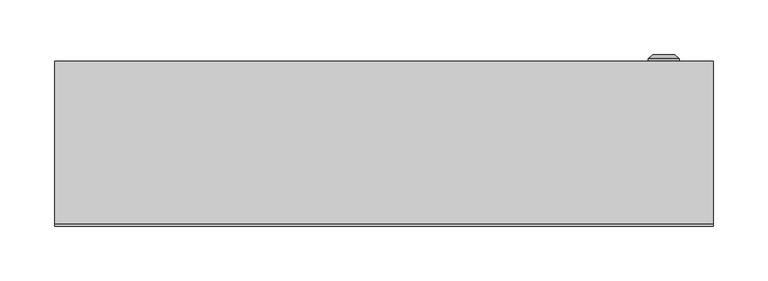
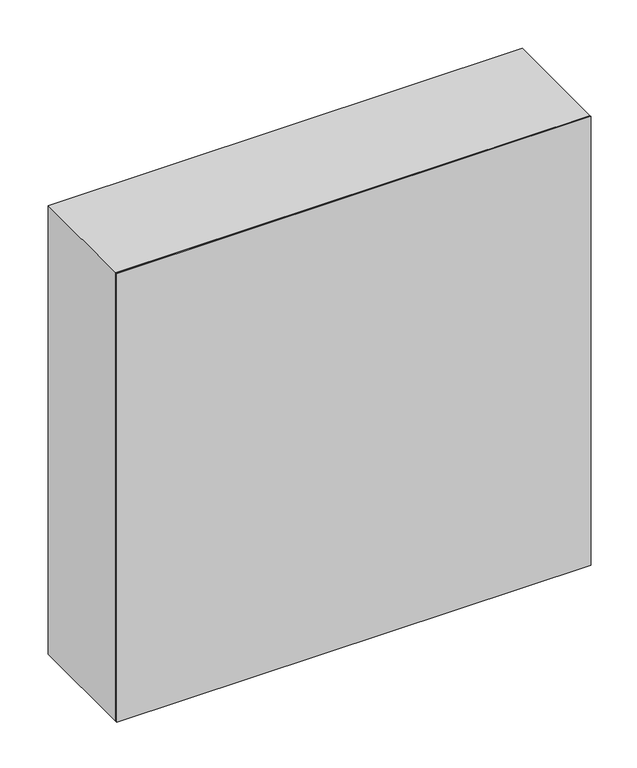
"""IFC4 building model written with IfcOpenShell, lengths in millimetres: proxy geometry, ЩМП : ЩМП-6.6.1-0_600х600х150."""

import ifcopenshell
import ifcopenshell.guid

model = None  # the IFC model being written
_history = None  # IfcOwnerHistory: only IFC2X3 demands one
_inside = {}  # id of a spatial element -> (the spatial element, [elements in it])
_under = {}  # id of a project, library or spatial element -> (it, [spatial elements below it])
_declared = {}  # id of a project -> (the project, [libraries it declares])
_typed = {}  # id of a type object -> (the type object, [elements of that type])
_made_of = {}  # id of a material, layer set ... -> (it, [elements and type objects made of it])


def new_model(schema):
    """Start an empty IFC model of exactly this schema.

    Asked for "IFC4X3", IfcOpenShell would pick the latest addendum, in which some entities
    have other attributes; the version numbers below select the first issue.
    IFC2X3 requires an IfcOwnerHistory on every rooted entity: one is made here for all.
    """
    global model, _history
    if schema == "IFC4X3":
        model = ifcopenshell.file(schema_version=(4, 3, 0, 0))
    else:
        model = ifcopenshell.file(schema=schema)
    _inside.clear()
    _under.clear()
    _declared.clear()
    _typed.clear()
    _made_of.clear()
    _history = None
    if model.schema == "IFC2X3":
        org = make("IfcOrganization", Name="unknown")
        user = make(
            "IfcPersonAndOrganization",
            ThePerson=make("IfcPerson", FamilyName="unknown"),
            TheOrganization=org,
        )
        app = make(
            "IfcApplication",
            ApplicationDeveloper=org,
            Version="unknown",
            ApplicationFullName="unknown",
            ApplicationIdentifier="unknown",
        )
        _history = make(
            "IfcOwnerHistory",
            OwningUser=user,
            OwningApplication=app,
            ChangeAction="ADDED",
            CreationDate=0,
        )
    return model


def make(cls, **values):
    """One entity of the class cls with the attributes given. An attribute that is None is left unset."""
    return model.create_entity(
        cls, **{name: value for name, value in values.items() if value is not None}
    )


def rooted(cls, **values):
    """An entity with a GlobalId (a new one), such as an element, a storey or a relation."""
    return make(cls, GlobalId=ifcopenshell.guid.new(), OwnerHistory=_history, **values)


def si_unit(unit_type, name, prefix=None):
    """IfcSIUnit, for example si_unit("LENGTHUNIT", "METRE", prefix="MILLI")."""
    return make("IfcSIUnit", UnitType=unit_type, Prefix=prefix, Name=name)


def assignment(units):
    """IfcUnitAssignment: the units of a project."""
    return None if units is None else make("IfcUnitAssignment", Units=units)


def point(xyz):
    """IfcCartesianPoint."""
    return None if xyz is None else make("IfcCartesianPoint", Coordinates=xyz)


def direction(xyz):
    """IfcDirection."""
    return None if xyz is None else make("IfcDirection", DirectionRatios=xyz)


def frame(location, z_axis=None, x_axis=None):
    """IfcAxis2Placement3D, a coordinate frame: its origin and axes. An axis left out is left unset."""
    return make(
        "IfcAxis2Placement3D",
        Location=point(location),
        Axis=direction(z_axis),
        RefDirection=direction(x_axis),
    )


def origin():
    """The frame at (0, 0, 0) with its axes left unset."""
    return frame((0.0, 0.0, 0.0))


def origin_with_axes():
    """The frame at (0, 0, 0) with the z axis (0, 0, 1) and the x axis (1, 0, 0) written out."""
    return frame((0.0, 0.0, 0.0), z_axis=(0.0, 0.0, 1.0), x_axis=(1.0, 0.0, 0.0))


def place(relative_to, where):
    """IfcLocalPlacement: puts the frame where relative to a parent placement (None: the world)."""
    return make(
        "IfcLocalPlacement", PlacementRelTo=relative_to, RelativePlacement=where
    )


def context(
    kind, dimensions, precision=None, world=None, true_north=None, identifier=None
):
    """IfcGeometricRepresentationContext, for example the 3D "Model" context."""
    return make(
        "IfcGeometricRepresentationContext",
        ContextIdentifier=identifier,
        ContextType=kind,
        CoordinateSpaceDimension=dimensions,
        Precision=precision,
        WorldCoordinateSystem=world,
        TrueNorth=true_north,
    )


def project(units=None, contexts=None):
    """IfcProject with its units and contexts."""
    return rooted(
        "IfcProject",
        Name="project",
        RepresentationContexts=contexts,
        UnitsInContext=assignment(units),
    )


def spatial(cls, under=None, at=None, **own):
    """A site, building, storey or space (cls), placed at a placement, below another one or the project."""
    s = rooted(cls, ObjectPlacement=at, **own)
    if under is not None:
        _under.setdefault(under.id(), (under, []))[1].append(s)
    return s


def polyline(points):
    """IfcPolyline through the points."""
    return make("IfcPolyline", Points=[point(p) for p in points])


def circle_curve(where, radius):
    """IfcCircle in the frame where."""
    return make("IfcCircle", Position=where, Radius=radius)


def outline(outer, holes=None, kind="AREA"):
    """IfcArbitraryClosedProfileDef: a profile drawn as a closed curve; with holes, ...WithVoids."""
    if holes is None:
        return make("IfcArbitraryClosedProfileDef", ProfileType=kind, OuterCurve=outer)
    return make(
        "IfcArbitraryProfileDefWithVoids",
        ProfileType=kind,
        OuterCurve=outer,
        InnerCurves=holes,
    )


def extrude(swept, where, along, depth):
    """IfcExtrudedAreaSolid: the profile swept, set in the frame where, extruded along a direction by depth."""
    return make(
        "IfcExtrudedAreaSolid",
        SweptArea=swept,
        Position=where,
        ExtrudedDirection=direction(along),
        Depth=depth,
    )


def shape(context_of_items, identifier, shape_type, items):
    """IfcShapeRepresentation: the items that make up one representation, for example the "Body"."""
    return make(
        "IfcShapeRepresentation",
        ContextOfItems=context_of_items,
        RepresentationIdentifier=identifier,
        RepresentationType=shape_type,
        Items=items,
    )


def source(mapping_origin, context_of_items, identifier, shape_type, items):
    """IfcRepresentationMap: a shape defined once, which mapped items show again and again."""
    return make(
        "IfcRepresentationMap",
        MappingOrigin=mapping_origin,
        MappedRepresentation=shape(context_of_items, identifier, shape_type, items),
    )


def transform(
    local_origin,
    x_axis=None,
    y_axis=None,
    z_axis=None,
    scale=None,
    scale2=None,
    scale3=None,
    uniform=True,
):
    """IfcCartesianTransformationOperator3D, or its non-uniform kind. x_axis, y_axis, z_axis: its Axis1, 2, 3."""
    if uniform:
        return make(
            "IfcCartesianTransformationOperator3D",
            Axis1=direction(x_axis),
            Axis2=direction(y_axis),
            LocalOrigin=point(local_origin),
            Scale=scale,
            Axis3=direction(z_axis),
        )
    return make(
        "IfcCartesianTransformationOperator3DnonUniform",
        Axis1=direction(x_axis),
        Axis2=direction(y_axis),
        LocalOrigin=point(local_origin),
        Scale=scale,
        Axis3=direction(z_axis),
        Scale2=scale2,
        Scale3=scale3,
    )


def mapped(mapping_source, mapping_target):
    """IfcMappedItem: shows the shape of a source again, moved by a transform."""
    return make(
        "IfcMappedItem", MappingSource=mapping_source, MappingTarget=mapping_target
    )


def made_of(thing, what):
    """Note that an element or type object is made of a material, layer set ...; save() writes the relation."""
    if what is not None:
        _made_of.setdefault(what.id(), (what, []))[1].append(thing)
    return thing


def element(
    cls,
    number,
    at=None,
    inside=None,
    cuts=None,
    type_object=None,
    material=None,
    context=None,
    identifier="Body",
    shape_type=None,
    held_by="IfcProductDefinitionShape",
    body=None,
    shapes=None,
    **own,
):
    """One element of the class cls, such as IfcWall. Its Tag is "e" and its number.

    at: its placement. inside: the storey or other place that contains it. cuts: it is an
    opening in that element (IfcRelVoidsElement). A single representation is given by context,
    identifier, shape_type and body (its items); several are given by shapes. held_by: the class
    of the entity that holds the representations. save() writes the other relations.
    """
    e = rooted(cls, Tag="e%d" % number, ObjectPlacement=at, **own)
    if body is not None:
        shapes = [shape(context, identifier, shape_type, body)]
    if shapes is not None:
        e.Representation = make(held_by, Representations=shapes)
    if inside is not None:
        _inside.setdefault(inside.id(), (inside, []))[1].append(e)
    if cuts is not None:
        rooted(
            "IfcRelVoidsElement", RelatingBuildingElement=cuts, RelatedOpeningElement=e
        )
    if type_object is not None:
        _typed.setdefault(type_object.id(), (type_object, []))[1].append(e)
    return made_of(e, material)


def aggregate(whole, parts):
    """IfcRelAggregates: a whole, such as a stair, and the parts it consists of."""
    return rooted("IfcRelAggregates", RelatingObject=whole, RelatedObjects=parts)


def save(model, path):
    """Write the relations noted so far, then the file.

    IfcRelAggregates (storeys below a building ...), IfcRelContainedInSpatialStructure (elements
    in a storey), IfcRelDefinesByType, IfcRelAssociatesMaterial and IfcRelDeclares: one each for
    every whole, place, type object, material and project.
    """
    for whole, parts in _under.values():
        aggregate(whole, parts)
    for where, things in _inside.values():
        rooted(
            "IfcRelContainedInSpatialStructure",
            RelatedElements=things,
            RelatingStructure=where,
        )
    for kind, things in _typed.values():
        rooted("IfcRelDefinesByType", RelatedObjects=things, RelatingType=kind)
    for what, things in _made_of.values():
        rooted("IfcRelAssociatesMaterial", RelatedObjects=things, RelatingMaterial=what)
    for by, libraries in _declared.values():
        rooted("IfcRelDeclares", RelatingContext=by, RelatedDefinitions=libraries)
    model.write(path)


def plane_surface(at):
    """IfcPlane: the flat surface through the origin of the frame at, square to its z axis."""
    return make("IfcPlane", Position=at)


def cylinder_surface(at, radius):
    """IfcCylindricalSurface: all points at the distance radius from the z axis of the frame at."""
    return make("IfcCylindricalSurface", Position=at, Radius=radius)


def revolved_surface(curve, axis_point, axis_direction):
    """IfcSurfaceOfRevolution: the curve turned about the line through axis_point along axis_direction."""
    return make(
        "IfcSurfaceOfRevolution",
        SweptCurve=make("IfcArbitraryOpenProfileDef", ProfileType="CURVE", Curve=curve),
        AxisPosition=make("IfcAxis1Placement", Location=point(axis_point), Axis=direction(axis_direction)),
    )


def advanced_brep(points, edges, surfaces, faces):
    """IfcAdvancedBrep: a solid bounded by faces that lie on surfaces and meet in shared edges.

    An edge is (start, end): straight between two places in points (the first is 0);
    or (start, end, curve); or (start, end, curve, False) where it runs against its curve.
    A face is (place in surfaces, loops), or (place, loops, False) where it looks against
    its surface's normal. A loop lists edges by number (the first is 1), with a minus sign
    where the edge is run from its end to its start. The first loop is the outer one.
    """
    corners = [point(p) for p in points]
    vertices = [make("IfcVertexPoint", VertexGeometry=c) for c in corners]
    made = []
    for start, end, *more in edges:
        made.append(
            make(
                "IfcEdgeCurve",
                EdgeStart=vertices[start],
                EdgeEnd=vertices[end],
                EdgeGeometry=more[0] if more else make("IfcPolyline", Points=[corners[start], corners[end]]),
                SameSense=more[1] if len(more) > 1 else True,
            )
        )
    hull = []
    for where, loops, *sense in faces:
        bounds = []
        for j, loop in enumerate(loops):
            ring = [make("IfcOrientedEdge", EdgeElement=made[abs(k) - 1], Orientation=k > 0) for k in loop]
            bounds.append(
                make(
                    "IfcFaceOuterBound" if j == 0 else "IfcFaceBound",
                    Bound=make("IfcEdgeLoop", EdgeList=ring),
                    Orientation=True,
                )
            )
        hull.append(make("IfcAdvancedFace", Bounds=bounds, FaceSurface=surfaces[where], SameSense=sense[0] if sense else True))
    return make("IfcAdvancedBrep", Outer=make("IfcClosedShell", CfsFaces=hull))


def electrical_equipment_87764ce0(model_context):
    return source(origin(), model_context, "Body", "SolidModel", [
        advanced_brep(
        [(240.669873, 150.0, 300.0), (269.330127, 150.0, 300.0), (255.0, 150.0, 300.0), (240.669873, 152.366592, 300.0), (269.330127, 152.366592, 300.0), (245.0, 156.0, 300.0), (265.0, 156.0, 300.0), (253.1080471, 156.0, 300.0), (256.8919529, 156.0, 300.0), (253.1080471, 154.9822294, 300.0), (256.8919529, 154.9822294, 300.0), (255.0, 154.9822294, 300.0)],
        [
            (0, 1, circle_curve(frame((255.0, 150.0, 300.0), z_axis=(0.0, -1.0, 0.0), x_axis=(1.0, 0.0, 0.0)), 14.330127)),
            (1, 2),
            (2, 0),
            (1, 0, circle_curve(frame((255.0, 150.0, 300.0), z_axis=(0.0, -1.0, 0.0), x_axis=(1.0, 0.0, 0.0)), 14.330127)),
            (3, 4, circle_curve(frame((255.0, 152.366592, 300.0), z_axis=(0.0, -1.0, 0.0), x_axis=(1.0, 0.0, 0.0)), 14.330127)),
            (4, 1),
            (0, 3),
            (4, 3, circle_curve(frame((255.0, 152.366592, 300.0), z_axis=(0.0, -1.0, 0.0), x_axis=(1.0, 0.0, 0.0)), 14.330127)),
            (5, 6, circle_curve(frame((255.0, 156.0, 300.0), z_axis=(0.0, -1.0, 0.0), x_axis=(1.0, 0.0, 0.0)), 10.0)),
            (6, 4),
            (3, 5),
            (6, 5, circle_curve(frame((255.0, 156.0, 300.0), z_axis=(0.0, -1.0, 0.0), x_axis=(1.0, 0.0, 0.0)), 10.0)),
            (7, 8, circle_curve(frame((255.0, 156.0, 300.0), z_axis=(0.0, -1.0, 0.0), x_axis=(1.0, 0.0, 0.0)), 1.8919529)),
            (8, 6),
            (5, 7),
            (8, 7, circle_curve(frame((255.0, 156.0, 300.0), z_axis=(0.0, -1.0, 0.0), x_axis=(1.0, 0.0, 0.0)), 1.8919529)),
            (9, 10, circle_curve(frame((255.0, 154.9822294, 300.0), z_axis=(0.0, -1.0, 0.0), x_axis=(1.0, 0.0, 0.0)), 1.8919529)),
            (10, 8),
            (7, 9),
            (10, 9, circle_curve(frame((255.0, 154.9822294, 300.0), z_axis=(0.0, -1.0, 0.0), x_axis=(1.0, 0.0, 0.0)), 1.8919529)),
            (11, 10),
            (9, 11),
        ],
        [
            plane_surface(frame((255.0, 150.0, 300.0), z_axis=(0.0, -1.0, 0.0), x_axis=(1.0, 0.0, 0.0))),
            cylinder_surface(frame((255.0, 163.1348851, 300.0), z_axis=(0.0, 1.0, 0.0), x_axis=(1.0, 0.0, 0.0)), 14.330127),
            revolved_surface(polyline([(269.330127, 152.366592, 300.0), (265.0, 156.0, 300.0)]), (255.0, 163.1348851, 300.0), (0.0, 1.0, 0.0)),
            plane_surface(frame((255.0, 156.0, 300.0), z_axis=(0.0, 1.0, 0.0), x_axis=(1.0, 0.0, 0.0))),
            revolved_surface(polyline([(256.8919529, 156.0, 300.0), (256.8919529, 154.9822294, 300.0)]), (255.0, 163.1348851, 300.0), (0.0, 1.0, 0.0)),
            plane_surface(frame((255.0, 154.9822294, 300.0), z_axis=(0.0, 1.0, 0.0), x_axis=(1.0, 0.0, 0.0))),
        ],
        [
            (0, [[1, 2, 3]]),
            (0, [[4, -3, -2]]),
            (1, [[5, 6, -1, 7]]),
            (1, [[8, -7, -4, -6]]),
            (2, [[9, 10, -5, 11]]),
            (2, [[12, -11, -8, -10]]),
            (3, [[13, 14, -9, 15]]),
            (3, [[16, -15, -12, -14]]),
            (4, [[17, 18, -13, 19]]),
            (4, [[20, -19, -16, -18]]),
            (5, [[21, -17, 22]]),
            (5, [[-22, -20, -21]]),
        ],
    ),
        extrude(outline(polyline([(281.5, 125.0), (-281.5, 125.0), (-281.5, 150.0), (281.5, 150.0), (281.5, 125.0)])), frame((0.0, 0.0, 18.5), z_axis=(0.0, 0.0, 1.0), x_axis=(1.0, 0.0, 0.0)), (0.0, 0.0, 1.0), 563.0),
        extrude(outline(polyline([(600.0, -300.0033905), (0.0, -300.0033905), (0.0, 299.9966095), (600.0, 299.9966095), (600.0, -300.0033905)]), holes=[polyline([(565.0, -265.0033905), (565.0, 264.9966095), (35.0, 264.9966095), (35.0, -265.0033905), (565.0, -265.0033905)])]), frame((0.0, 2.0, 0.0), z_axis=(0.0, 1.0, 0.0), x_axis=(0.0, 0.0, 1.0)), (0.0, 0.0, 1.0), 148.0),
        extrude(outline(polyline([(300.0, 0.0), (-300.0, 0.0), (-300.0, 2.0), (300.0, 2.0), (300.0, 0.0)])), origin_with_axes(), (0.0, 0.0, 1.0), 600.0),
    ])


if __name__ == "__main__":
    model = new_model("IFC4")
    model_context = context("Model", 3, world=origin())
    ifc_project = project(units=[si_unit("LENGTHUNIT", "METRE", prefix="MILLI")], contexts=[model_context])
    site = spatial("IfcSite", under=ifc_project)
    building = spatial("IfcBuilding", under=site)
    placement = place(None, origin())
    electrical_equipment_shape = electrical_equipment_87764ce0(model_context)
    element("IfcBuildingElementProxy", 1, Name="ЩМП : ЩМП-6.6.1-0_600х600х150", ObjectType="ЩМП : ЩМП-6.6.1-0_600х600х150", at=placement, inside=building, context=model_context, shape_type="MappedRepresentation", body=[
        mapped(electrical_equipment_shape, transform((0.0, 0.0, 0.0), x_axis=(1.0, 0.0, 0.0), y_axis=(0.0, 1.0, 0.0), z_axis=(0.0, 0.0, 1.0))),
    ])
    save(model, "model.ifc")
